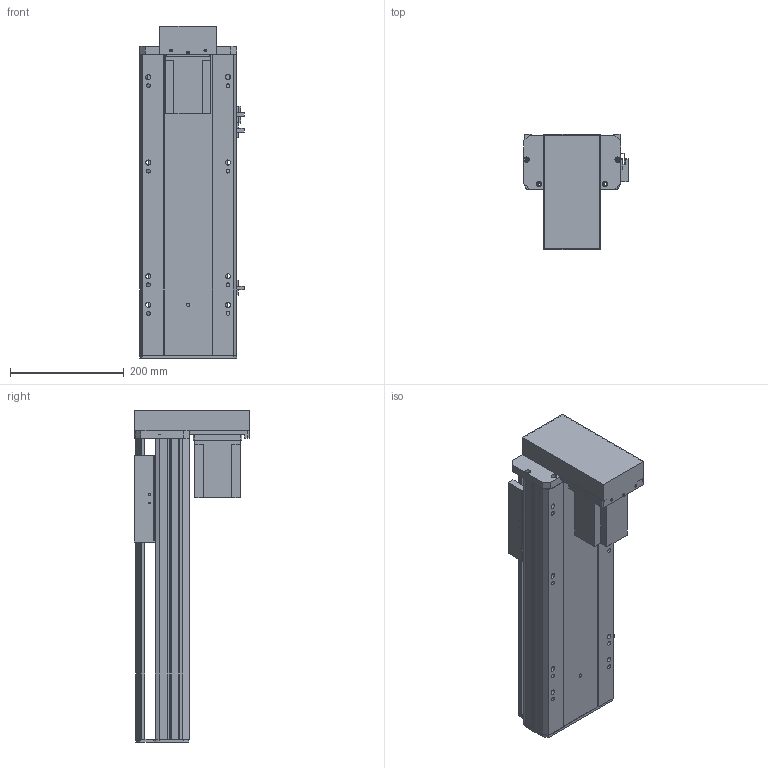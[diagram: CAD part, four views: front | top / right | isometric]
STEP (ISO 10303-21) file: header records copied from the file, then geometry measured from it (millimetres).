
FILE_DESCRIPTION (( 'STEP AP203' ), '1' );
FILE_NAME ('Y170-D10-S300-BM-P750W.STEP', '2020-01-22T02:52:16', ( '微软用户' ), ( '微软中国' ), 'SwSTEP 2.0', 'SolidWorks 2017', '' );
FILE_SCHEMA (( 'CONFIG_CONTROL_DESIGN' ));
Length unit declared in the file: millimetre
Products named in the file (12): 170-BM耜蚾蟀諉啣; Y170-BM--P750W楊擘啣; -BM俋袗; Y170耜裔--準---; YD-Y100-135-新外置传感挡片(通用）; 170--掛极-BR; Y100-135俋离換覜ん; 侂狟750W; Y170-D10-S300-BM-P750W; EGH20賑輸_蕼偞; Y雄赽釱-耜蚾; Y170-陔遴奻裔-BR
Assembly tree (14 placements, depth 2):
  Y170-D10-S300-BM-P750W
    Y170耜裔--準---
    170--掛极-BR
    侂狟750W
    EGH20賑輸_蕼偞  x2
    Y雄赽釱-耜蚾
    Y170-陔遴奻裔-BR
    170-BM耜蚾蟀諉啣
    Y170-BM--P750W楊擘啣
    -BM俋袗
    YD-Y100-135-新外置传感挡片(通用）
    Y100-135俋离換覜ん  x3
Bounding box: 183.5 x 203.5 x 583.5 mm (x, y, z)
Volume: 3451469 mm3; surface area: 1109984.9 mm2
Topology: 14 solids, 14 shells, 882 faces, 2460 edges, 1622 vertices
Faces by surface type: plane 436, cylinder 430, cone 16
Entity records: 27546 total; most frequent: CARTESIAN_POINT 4767, DIRECTION 4584, ORIENTED_EDGE 4416, EDGE_CURVE 2208, AXIS2_PLACEMENT_3D 1619, VERTEX_POINT 1466, VECTOR 1346, LINE 1346
